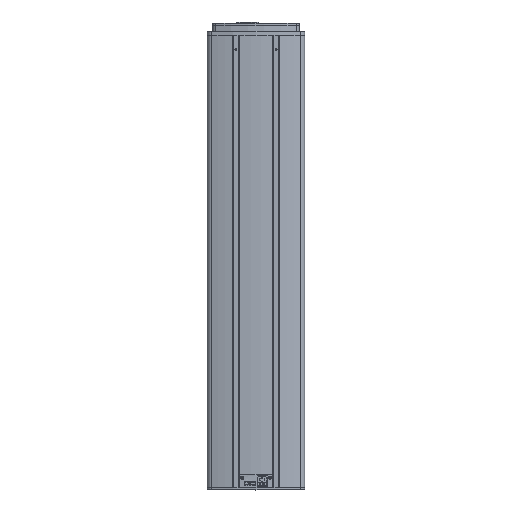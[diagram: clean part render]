
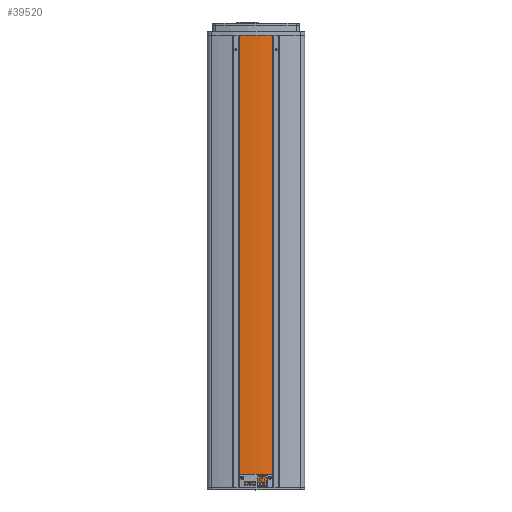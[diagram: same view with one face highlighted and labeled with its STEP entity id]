
A CAD part, top view. The second image highlights one B-rep face of the part: STEP entity #39520.
In plain terms, the highlighted cylindrical face has radius 438 mm (diameter 876 mm), a partial arc.
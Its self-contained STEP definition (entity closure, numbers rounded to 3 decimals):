
#3351 = LINE ( 'NONE', #14103, #29741 ) ;
#3383 = CIRCLE ( 'NONE', #51793, 438. ) ;
#8796 = ORIENTED_EDGE ( 'NONE', *, *, #50086, .T. ) ;
#9488 = AXIS2_PLACEMENT_3D ( 'NONE', #54655, #43839, #17971 ) ;
#11718 = CARTESIAN_POINT ( 'NONE',  ( -47.194, 1291., 98.772 ) ) ;
#14103 = CARTESIAN_POINT ( 'NONE',  ( 46.166, 1291., 98.772 ) ) ;
#14887 = ORIENTED_EDGE ( 'NONE', *, *, #19718, .F. ) ;
#17372 = ORIENTED_EDGE ( 'NONE', *, *, #55531, .T. ) ;
#17686 = CARTESIAN_POINT ( 'NONE',  ( -47.194, 1291., 98.772 ) ) ;
#17971 = DIRECTION ( 'NONE',  ( 0., 0., 1. ) ) ;
#19718 = EDGE_CURVE ( 'NONE', #28867, #26390, #3351, .T. ) ;
#21139 = VECTOR ( 'NONE', #37702, 1000. ) ;
#21928 = CARTESIAN_POINT ( 'NONE',  ( -47.194, 6., 98.772 ) ) ;
#26390 = VERTEX_POINT ( 'NONE', #43111 ) ;
#28867 = VERTEX_POINT ( 'NONE', #31984 ) ;
#29453 = DIRECTION ( 'NONE',  ( 0., -1., 0. ) ) ;
#29669 = CARTESIAN_POINT ( 'NONE',  ( -0.514, 1291., -336.733 ) ) ;
#29741 = VECTOR ( 'NONE', #49837, 1000. ) ;
#31984 = CARTESIAN_POINT ( 'NONE',  ( 46.166, 1291., 98.772 ) ) ;
#34527 = DIRECTION ( 'NONE',  ( 0., 0., 1. ) ) ;
#34850 = DIRECTION ( 'NONE',  ( 0., 0., -1. ) ) ;
#37702 = DIRECTION ( 'NONE',  ( 0., -1., 0. ) ) ;
#38027 = LINE ( 'NONE', #17686, #21139 ) ;
#39520 = ADVANCED_FACE ( 'NONE', ( #59587 ), #58736, .T. ) ;
#40968 = EDGE_LOOP ( 'NONE', ( #8796, #14887, #61515, #17372 ) ) ;
#43111 = CARTESIAN_POINT ( 'NONE',  ( 46.166, 6., 98.772 ) ) ;
#43839 = DIRECTION ( 'NONE',  ( 0., 1., 0. ) ) ;
#45144 = DIRECTION ( 'NONE',  ( 0., 1., 0. ) ) ;
#45970 = VERTEX_POINT ( 'NONE', #11718 ) ;
#49837 = DIRECTION ( 'NONE',  ( 0., -1., 0. ) ) ;
#50086 = EDGE_CURVE ( 'NONE', #56923, #26390, #54222, .T. ) ;
#50767 = CARTESIAN_POINT ( 'NONE',  ( -0.514, 1291., -336.733 ) ) ;
#51793 = AXIS2_PLACEMENT_3D ( 'NONE', #50767, #45144, #34527 ) ;
#53409 = AXIS2_PLACEMENT_3D ( 'NONE', #29669, #29453, #34850 ) ;
#54222 = CIRCLE ( 'NONE', #9488, 438. ) ;
#54655 = CARTESIAN_POINT ( 'NONE',  ( -0.514, 6., -336.733 ) ) ;
#55531 = EDGE_CURVE ( 'NONE', #45970, #56923, #38027, .T. ) ;
#56923 = VERTEX_POINT ( 'NONE', #21928 ) ;
#58736 = CYLINDRICAL_SURFACE ( 'NONE', #53409, 438. ) ;
#59587 = FACE_OUTER_BOUND ( 'NONE', #40968, .T. ) ;
#61515 = ORIENTED_EDGE ( 'NONE', *, *, #63766, .F. ) ;
#63766 = EDGE_CURVE ( 'NONE', #45970, #28867, #3383, .T. ) ;
